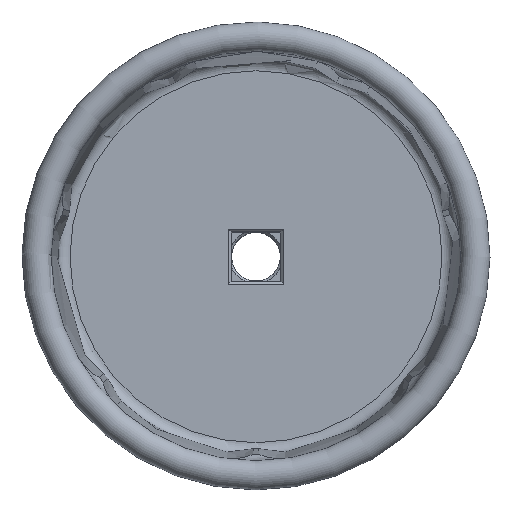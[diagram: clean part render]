
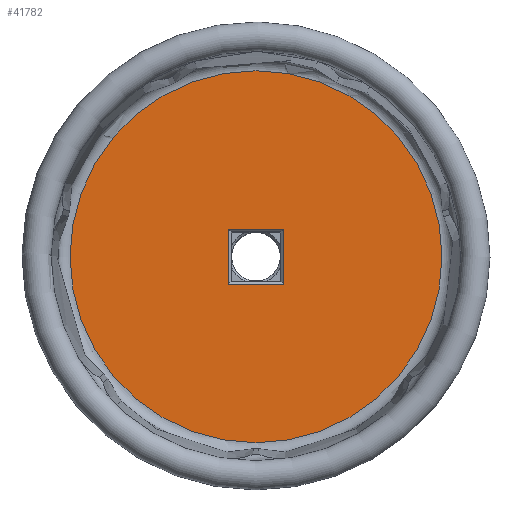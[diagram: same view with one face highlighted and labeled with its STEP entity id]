
A CAD part, top view. The second image highlights one B-rep face of the part: STEP entity #41782.
In plain terms, the highlighted planar face has unit normal (0, 0, 1).
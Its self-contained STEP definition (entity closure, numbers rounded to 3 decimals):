
#26=PLANE('',#42074);
#68=CIRCLE('',#42072,31.871);
#286=FACE_BOUND('',#11166,.T.);
#2198=LINE('',#102827,#4154);
#2199=LINE('',#102829,#4155);
#2200=LINE('',#102831,#4156);
#2201=LINE('',#102832,#4157);
#4154=VECTOR('',#44500,10.);
#4155=VECTOR('',#44501,10.);
#4156=VECTOR('',#44502,10.);
#4157=VECTOR('',#44503,10.);
#8613=FACE_OUTER_BOUND('',#11165,.T.);
#11165=EDGE_LOOP('',(#39047));
#11166=EDGE_LOOP('',(#39048,#39049,#39050,#39051));
#19867=VERTEX_POINT('',#102219);
#19897=VERTEX_POINT('',#102825);
#19898=VERTEX_POINT('',#102826);
#19899=VERTEX_POINT('',#102828);
#19900=VERTEX_POINT('',#102830);
#26250=EDGE_CURVE('',#19867,#19867,#68,.T.);
#26299=EDGE_CURVE('',#19897,#19898,#2198,.T.);
#26300=EDGE_CURVE('',#19899,#19897,#2199,.T.);
#26301=EDGE_CURVE('',#19900,#19899,#2200,.T.);
#26302=EDGE_CURVE('',#19898,#19900,#2201,.T.);
#39047=ORIENTED_EDGE('',*,*,#26250,.F.);
#39048=ORIENTED_EDGE('',*,*,#26299,.F.);
#39049=ORIENTED_EDGE('',*,*,#26300,.F.);
#39050=ORIENTED_EDGE('',*,*,#26301,.F.);
#39051=ORIENTED_EDGE('',*,*,#26302,.F.);
#41782=ADVANCED_FACE('',(#8613,#286),#26,.F.);
#42072=AXIS2_PLACEMENT_3D('',#102220,#44483,#44484);
#42074=AXIS2_PLACEMENT_3D('',#102824,#44498,#44499);
#44483=DIRECTION('center_axis',(0.,0.,-1.));
#44484=DIRECTION('ref_axis',(1.,0.,0.));
#44498=DIRECTION('center_axis',(0.,0.,-1.));
#44499=DIRECTION('ref_axis',(-1.,0.,0.));
#44500=DIRECTION('',(0.,-1.,0.));
#44501=DIRECTION('',(-1.,0.,0.));
#44502=DIRECTION('',(0.,1.,0.));
#44503=DIRECTION('',(1.,0.,0.));
#102219=CARTESIAN_POINT('',(31.871,0.,5.));
#102220=CARTESIAN_POINT('Origin',(0.,0.,5.));
#102824=CARTESIAN_POINT('Origin',(0.,0.,5.));
#102825=CARTESIAN_POINT('',(-4.75,4.75,5.));
#102826=CARTESIAN_POINT('',(-4.75,-4.75,5.));
#102827=CARTESIAN_POINT('',(-4.75,2.125,5.));
#102828=CARTESIAN_POINT('',(4.75,4.75,5.));
#102829=CARTESIAN_POINT('',(2.125,4.75,5.));
#102830=CARTESIAN_POINT('',(4.75,-4.75,5.));
#102831=CARTESIAN_POINT('',(4.75,-2.125,5.));
#102832=CARTESIAN_POINT('',(-2.125,-4.75,5.));
